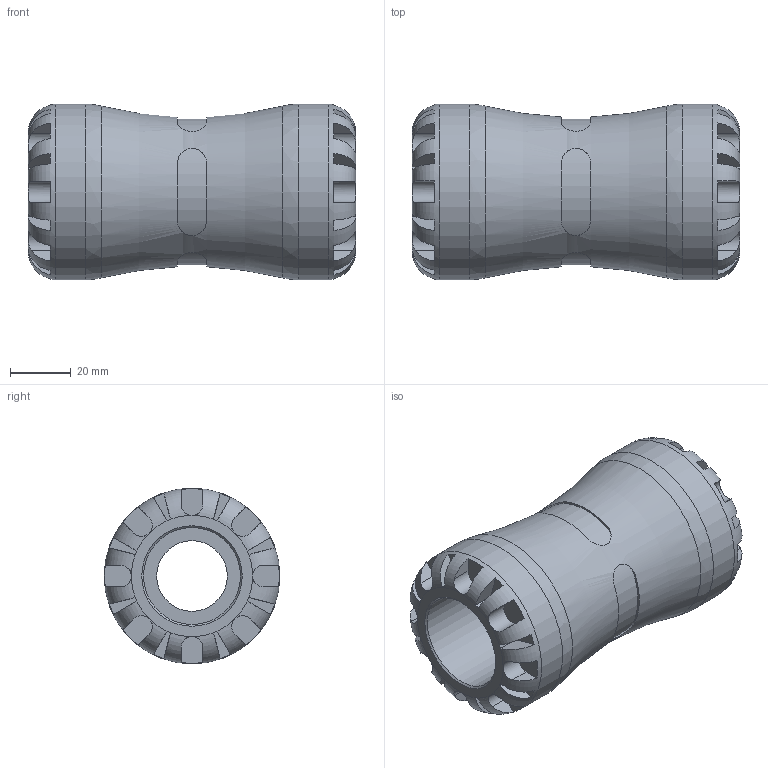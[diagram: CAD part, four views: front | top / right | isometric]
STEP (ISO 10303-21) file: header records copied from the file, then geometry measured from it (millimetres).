
FILE_DESCRIPTION(/* description */ ('PLASSON COPPER PIPE ADAPTOR 32X28 SERIES 1'),/* implementation_level */ '2;1');
FILE_NAME(/* name */ 'C:\Dropbox\KIMPROJECTS-Inventor\99-16-3568-Processing\1001C\1001C0032028_1901C0032028.ipt.stp',/* time_stamp */ '2017-01-22T10:04:51+02:00',/* author */ ('KIM'),/* organization */ (''),/* preprocessor_version */ 'ST-DEVELOPER v15.6',/* originating_system */ 'Autodesk Inventor 2015',/* authorisation */ '');
FILE_SCHEMA (('AUTOMOTIVE_DESIGN { 1 0 10303 214 3 1 1 }'));
Length unit declared in the file: millimetre
Products named in the file (1): 1001C0032028_1901C0032028
Bounding box: 108 x 58 x 58 mm (x, y, z)
Volume: 163786 mm3; surface area: 34831.7 mm2
Topology: 1 solids, 1 shells, 164 faces, 419 edges, 262 vertices
Faces by surface type: plane 108, cylinder 49, torus 3, cone 2, bspline 2
Full cylindrical faces by diameter (mm): 23.333 x1, 28 x1, 32 x1, 58 x2
Entity records: 6444 total; most frequent: CARTESIAN_POINT 2475, ORIENTED_EDGE 808, DIRECTION 762, EDGE_CURVE 404, AXIS2_PLACEMENT_3D 309, VERTEX_POINT 258, EDGE_LOOP 182, STYLED_ITEM 165
